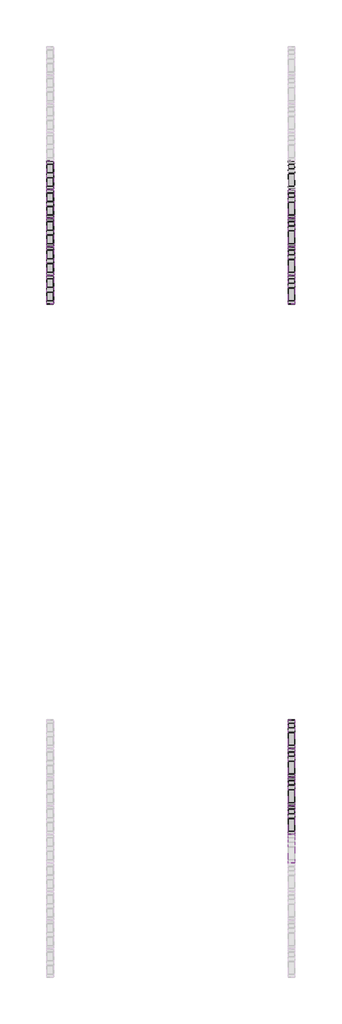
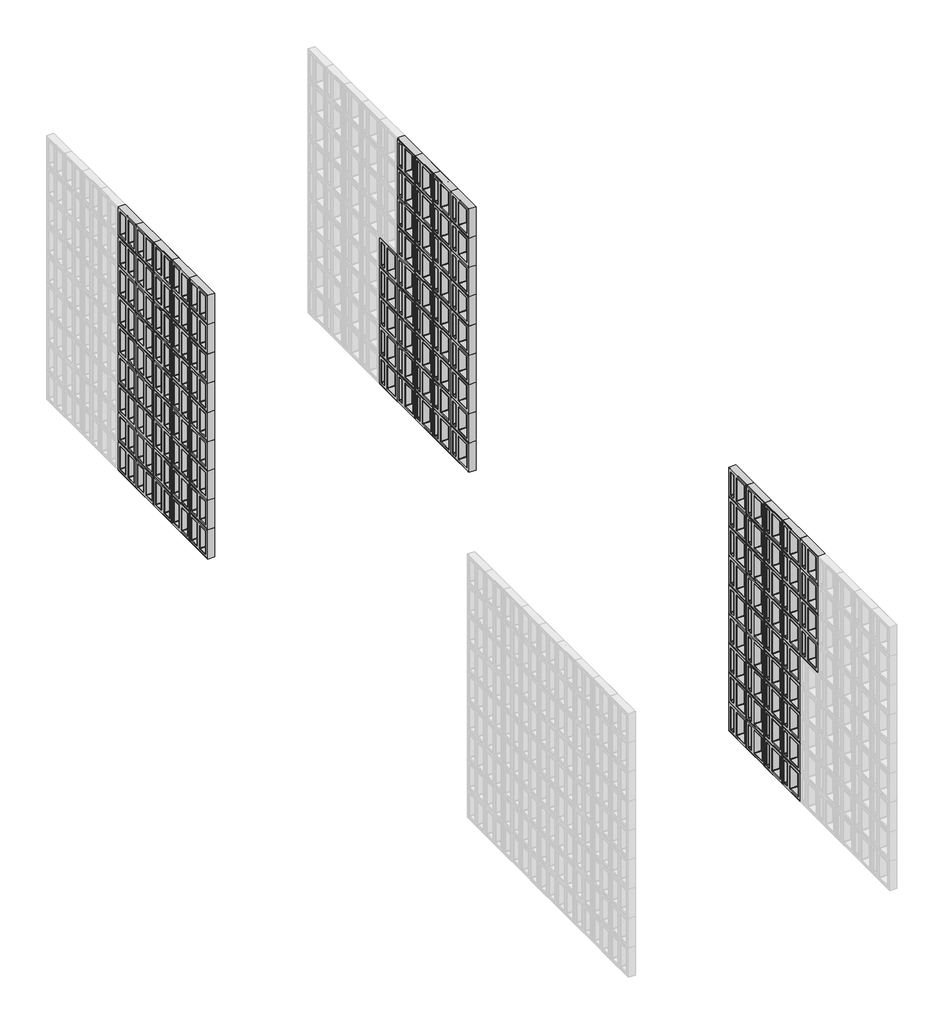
# One storey, part 2 of 8: 126 plates.
"""IFC4 building model written with IfcOpenShell, lengths in millimetres."""

from ifc_helpers import new_model, si_unit, origin, place, context, project, spatial, transform, mapped, element, save
from components import plate_08ec880d, sim_branco_8a5b93f5

model = new_model("IFC4")

# Units and contexts
model_context = context("Model", 3, world=origin())
ifc_project = project(units=[si_unit("LENGTHUNIT", "METRE", prefix="MILLI")], contexts=[model_context])

# Site, building, storey
site = spatial("IfcSite", under=ifc_project)
building = spatial("IfcBuilding", under=site)
storey = spatial("IfcBuildingStorey", under=building, Name="PORTOBELLO - SHOWROOM", Elevation=0.0)

# Plates
placement = place(None, origin())
plate_shape = plate_08ec880d(model_context)
element("IfcPlate", 1, ObjectType="PORTOBELLO - ELEMENTO ASSIM BRANCO 30X30 (PAINEL CORTINA) : ASSIM BRANCO", at=placement, inside=storey, context=model_context, shape_type="MappedRepresentation", body=[
    mapped(plate_shape, transform((149974.9354422, 4710.9733077, 1540.0), x_axis=(0.0, 1.0, 0.0), y_axis=(-1.0, 0.0, 0.0), z_axis=(0.0, 0.0, 1.0))),
])
element("IfcPlate", 2, ObjectType="PORTOBELLO - ELEMENTO ASSIM BRANCO 30X30 (PAINEL CORTINA) : ASSIM BRANCO", at=placement, inside=storey, context=model_context, shape_type="MappedRepresentation", body=[
    mapped(plate_shape, transform((149974.9354422, 4710.9733077, 1848.0), x_axis=(0.0, 1.0, 0.0), y_axis=(-1.0, 0.0, 0.0), z_axis=(0.0, 0.0, 1.0))),
])
element("IfcPlate", 3, ObjectType="PORTOBELLO - ELEMENTO ASSIM BRANCO 30X30 (PAINEL CORTINA) : ASSIM BRANCO", at=placement, inside=storey, context=model_context, shape_type="MappedRepresentation", body=[
    mapped(plate_shape, transform((149974.9354422, 4710.9733077, 2156.0), x_axis=(0.0, 1.0, 0.0), y_axis=(-1.0, 0.0, 0.0), z_axis=(0.0, 0.0, 1.0))),
])
element("IfcPlate", 4, ObjectType="PORTOBELLO - ELEMENTO ASSIM BRANCO 30X30 (PAINEL CORTINA) : ASSIM BRANCO", at=placement, inside=storey, context=model_context, shape_type="MappedRepresentation", body=[
    mapped(plate_shape, transform((149974.9354422, 5018.9733077, 0.0), x_axis=(0.0, 1.0, 0.0), y_axis=(-1.0, 0.0, 0.0), z_axis=(0.0, 0.0, 1.0))),
])
element("IfcPlate", 5, ObjectType="PORTOBELLO - ELEMENTO ASSIM BRANCO 30X30 (PAINEL CORTINA) : ASSIM BRANCO", at=placement, inside=storey, context=model_context, shape_type="MappedRepresentation", body=[
    mapped(plate_shape, transform((149974.9354422, 5018.9733077, 308.0), x_axis=(0.0, 1.0, 0.0), y_axis=(-1.0, 0.0, 0.0), z_axis=(0.0, 0.0, 1.0))),
])
element("IfcPlate", 6, ObjectType="PORTOBELLO - ELEMENTO ASSIM BRANCO 30X30 (PAINEL CORTINA) : ASSIM BRANCO", at=placement, inside=storey, context=model_context, shape_type="MappedRepresentation", body=[
    mapped(plate_shape, transform((149974.9354422, 5018.9733077, 616.0), x_axis=(0.0, 1.0, 0.0), y_axis=(-1.0, 0.0, 0.0), z_axis=(0.0, 0.0, 1.0))),
])
element("IfcPlate", 7, ObjectType="PORTOBELLO - ELEMENTO ASSIM BRANCO 30X30 (PAINEL CORTINA) : ASSIM BRANCO", at=placement, inside=storey, context=model_context, shape_type="MappedRepresentation", body=[
    mapped(plate_shape, transform((149974.9354422, 5018.9733077, 924.0), x_axis=(0.0, 1.0, 0.0), y_axis=(-1.0, 0.0, 0.0), z_axis=(0.0, 0.0, 1.0))),
])
element("IfcPlate", 8, ObjectType="PORTOBELLO - ELEMENTO ASSIM BRANCO 30X30 (PAINEL CORTINA) : ASSIM BRANCO", at=placement, inside=storey, context=model_context, shape_type="MappedRepresentation", body=[
    mapped(plate_shape, transform((149974.9354422, 5018.9733077, 1232.0), x_axis=(0.0, 1.0, 0.0), y_axis=(-1.0, 0.0, 0.0), z_axis=(0.0, 0.0, 1.0))),
])
element("IfcPlate", 9, ObjectType="PORTOBELLO - ELEMENTO ASSIM BRANCO 30X30 (PAINEL CORTINA) : ASSIM BRANCO", at=placement, inside=storey, context=model_context, shape_type="MappedRepresentation", body=[
    mapped(plate_shape, transform((149974.9354422, 5018.9733077, 1540.0), x_axis=(0.0, 1.0, 0.0), y_axis=(-1.0, 0.0, 0.0), z_axis=(0.0, 0.0, 1.0))),
])
element("IfcPlate", 10, ObjectType="PORTOBELLO - ELEMENTO ASSIM BRANCO 30X30 (PAINEL CORTINA) : ASSIM BRANCO", at=placement, inside=storey, context=model_context, shape_type="MappedRepresentation", body=[
    mapped(plate_shape, transform((149974.9354422, 5018.9733077, 1848.0), x_axis=(0.0, 1.0, 0.0), y_axis=(-1.0, 0.0, 0.0), z_axis=(0.0, 0.0, 1.0))),
])
element("IfcPlate", 11, ObjectType="PORTOBELLO - ELEMENTO ASSIM BRANCO 30X30 (PAINEL CORTINA) : ASSIM BRANCO", at=placement, inside=storey, context=model_context, shape_type="MappedRepresentation", body=[
    mapped(plate_shape, transform((149974.9354422, 5018.9733077, 2156.0), x_axis=(0.0, 1.0, 0.0), y_axis=(-1.0, 0.0, 0.0), z_axis=(0.0, 0.0, 1.0))),
])
element("IfcPlate", 12, ObjectType="PORTOBELLO - ELEMENTO ASSIM BRANCO 30X30 (PAINEL CORTINA) : ASSIM BRANCO", at=placement, inside=storey, context=model_context, shape_type="MappedRepresentation", body=[
    mapped(plate_shape, transform((149974.9354422, 5326.9733077, 0.0), x_axis=(0.0, 1.0, 0.0), y_axis=(-1.0, 0.0, 0.0), z_axis=(0.0, 0.0, 1.0))),
])
element("IfcPlate", 13, ObjectType="PORTOBELLO - ELEMENTO ASSIM BRANCO 30X30 (PAINEL CORTINA) : ASSIM BRANCO", at=placement, inside=storey, context=model_context, shape_type="MappedRepresentation", body=[
    mapped(plate_shape, transform((149974.9354422, 5326.9733077, 308.0), x_axis=(0.0, 1.0, 0.0), y_axis=(-1.0, 0.0, 0.0), z_axis=(0.0, 0.0, 1.0))),
])
element("IfcPlate", 14, ObjectType="PORTOBELLO - ELEMENTO ASSIM BRANCO 30X30 (PAINEL CORTINA) : ASSIM BRANCO", at=placement, inside=storey, context=model_context, shape_type="MappedRepresentation", body=[
    mapped(plate_shape, transform((149974.9354422, 5326.9733077, 616.0), x_axis=(0.0, 1.0, 0.0), y_axis=(-1.0, 0.0, 0.0), z_axis=(0.0, 0.0, 1.0))),
])
element("IfcPlate", 15, ObjectType="PORTOBELLO - ELEMENTO ASSIM BRANCO 30X30 (PAINEL CORTINA) : ASSIM BRANCO", at=placement, inside=storey, context=model_context, shape_type="MappedRepresentation", body=[
    mapped(plate_shape, transform((149974.9354422, 5326.9733077, 924.0), x_axis=(0.0, 1.0, 0.0), y_axis=(-1.0, 0.0, 0.0), z_axis=(0.0, 0.0, 1.0))),
])
element("IfcPlate", 16, ObjectType="PORTOBELLO - ELEMENTO ASSIM BRANCO 30X30 (PAINEL CORTINA) : ASSIM BRANCO", at=placement, inside=storey, context=model_context, shape_type="MappedRepresentation", body=[
    mapped(plate_shape, transform((149974.9354422, 5326.9733077, 1232.0), x_axis=(0.0, 1.0, 0.0), y_axis=(-1.0, 0.0, 0.0), z_axis=(0.0, 0.0, 1.0))),
])
element("IfcPlate", 17, ObjectType="PORTOBELLO - ELEMENTO ASSIM BRANCO 30X30 (PAINEL CORTINA) : ASSIM BRANCO", at=placement, inside=storey, context=model_context, shape_type="MappedRepresentation", body=[
    mapped(plate_shape, transform((149974.9354422, 5326.9733077, 1540.0), x_axis=(0.0, 1.0, 0.0), y_axis=(-1.0, 0.0, 0.0), z_axis=(0.0, 0.0, 1.0))),
])
element("IfcPlate", 18, ObjectType="PORTOBELLO - ELEMENTO ASSIM BRANCO 30X30 (PAINEL CORTINA) : ASSIM BRANCO", at=placement, inside=storey, context=model_context, shape_type="MappedRepresentation", body=[
    mapped(plate_shape, transform((149974.9354422, 5326.9733077, 1848.0), x_axis=(0.0, 1.0, 0.0), y_axis=(-1.0, 0.0, 0.0), z_axis=(0.0, 0.0, 1.0))),
])
element("IfcPlate", 19, ObjectType="PORTOBELLO - ELEMENTO ASSIM BRANCO 30X30 (PAINEL CORTINA) : ASSIM BRANCO", at=placement, inside=storey, context=model_context, shape_type="MappedRepresentation", body=[
    mapped(plate_shape, transform((149974.9354422, 5326.9733077, 2156.0), x_axis=(0.0, 1.0, 0.0), y_axis=(-1.0, 0.0, 0.0), z_axis=(0.0, 0.0, 1.0))),
])
element("IfcPlate", 20, ObjectType="PORTOBELLO - ELEMENTO ASSIM BRANCO 30X30 (PAINEL CORTINA) : ASSIM BRANCO", at=placement, inside=storey, context=model_context, shape_type="MappedRepresentation", body=[
    mapped(plate_shape, transform((149974.9354422, 5634.9733077, 0.0), x_axis=(0.0, 1.0, 0.0), y_axis=(-1.0, 0.0, 0.0), z_axis=(0.0, 0.0, 1.0))),
])
element("IfcPlate", 21, ObjectType="PORTOBELLO - ELEMENTO ASSIM BRANCO 30X30 (PAINEL CORTINA) : ASSIM BRANCO", at=placement, inside=storey, context=model_context, shape_type="MappedRepresentation", body=[
    mapped(plate_shape, transform((149974.9354422, 5634.9733077, 308.0), x_axis=(0.0, 1.0, 0.0), y_axis=(-1.0, 0.0, 0.0), z_axis=(0.0, 0.0, 1.0))),
])
element("IfcPlate", 22, ObjectType="PORTOBELLO - ELEMENTO ASSIM BRANCO 30X30 (PAINEL CORTINA) : ASSIM BRANCO", at=placement, inside=storey, context=model_context, shape_type="MappedRepresentation", body=[
    mapped(plate_shape, transform((149974.9354422, 5634.9733077, 616.0), x_axis=(0.0, 1.0, 0.0), y_axis=(-1.0, 0.0, 0.0), z_axis=(0.0, 0.0, 1.0))),
])
element("IfcPlate", 23, ObjectType="PORTOBELLO - ELEMENTO ASSIM BRANCO 30X30 (PAINEL CORTINA) : ASSIM BRANCO", at=placement, inside=storey, context=model_context, shape_type="MappedRepresentation", body=[
    mapped(plate_shape, transform((149974.9354422, 5634.9733077, 924.0), x_axis=(0.0, 1.0, 0.0), y_axis=(-1.0, 0.0, 0.0), z_axis=(0.0, 0.0, 1.0))),
])
element("IfcPlate", 24, ObjectType="PORTOBELLO - ELEMENTO ASSIM BRANCO 30X30 (PAINEL CORTINA) : ASSIM BRANCO", at=placement, inside=storey, context=model_context, shape_type="MappedRepresentation", body=[
    mapped(plate_shape, transform((149974.9354422, 5634.9733077, 1232.0), x_axis=(0.0, 1.0, 0.0), y_axis=(-1.0, 0.0, 0.0), z_axis=(0.0, 0.0, 1.0))),
])
element("IfcPlate", 25, ObjectType="PORTOBELLO - ELEMENTO ASSIM BRANCO 30X30 (PAINEL CORTINA) : ASSIM BRANCO", at=placement, inside=storey, context=model_context, shape_type="MappedRepresentation", body=[
    mapped(plate_shape, transform((149974.9354422, 5634.9733077, 1540.0), x_axis=(0.0, 1.0, 0.0), y_axis=(-1.0, 0.0, 0.0), z_axis=(0.0, 0.0, 1.0))),
])
element("IfcPlate", 26, ObjectType="PORTOBELLO - ELEMENTO ASSIM BRANCO 30X30 (PAINEL CORTINA) : ASSIM BRANCO", at=placement, inside=storey, context=model_context, shape_type="MappedRepresentation", body=[
    mapped(plate_shape, transform((149974.9354422, 5634.9733077, 1848.0), x_axis=(0.0, 1.0, 0.0), y_axis=(-1.0, 0.0, 0.0), z_axis=(0.0, 0.0, 1.0))),
])
element("IfcPlate", 27, ObjectType="PORTOBELLO - ELEMENTO ASSIM BRANCO 30X30 (PAINEL CORTINA) : ASSIM BRANCO", at=placement, inside=storey, context=model_context, shape_type="MappedRepresentation", body=[
    mapped(plate_shape, transform((149974.9354422, 5634.9733077, 2156.0), x_axis=(0.0, 1.0, 0.0), y_axis=(-1.0, 0.0, 0.0), z_axis=(0.0, 0.0, 1.0))),
])
element("IfcPlate", 28, ObjectType="PORTOBELLO - ELEMENTO ASSIM BRANCO 30X30 (PAINEL CORTINA) : ASSIM BRANCO", at=placement, inside=storey, context=model_context, shape_type="MappedRepresentation", body=[
    mapped(plate_shape, transform((149974.9354422, 5942.9733077, 0.0), x_axis=(0.0, 1.0, 0.0), y_axis=(-1.0, 0.0, 0.0), z_axis=(0.0, 0.0, 1.0))),
])
element("IfcPlate", 29, ObjectType="PORTOBELLO - ELEMENTO ASSIM BRANCO 30X30 (PAINEL CORTINA) : ASSIM BRANCO", at=placement, inside=storey, context=model_context, shape_type="MappedRepresentation", body=[
    mapped(plate_shape, transform((149974.9354422, 5942.9733077, 308.0), x_axis=(0.0, 1.0, 0.0), y_axis=(-1.0, 0.0, 0.0), z_axis=(0.0, 0.0, 1.0))),
])
element("IfcPlate", 30, ObjectType="PORTOBELLO - ELEMENTO ASSIM BRANCO 30X30 (PAINEL CORTINA) : ASSIM BRANCO", at=placement, inside=storey, context=model_context, shape_type="MappedRepresentation", body=[
    mapped(plate_shape, transform((149974.9354422, 5942.9733077, 616.0), x_axis=(0.0, 1.0, 0.0), y_axis=(-1.0, 0.0, 0.0), z_axis=(0.0, 0.0, 1.0))),
])
element("IfcPlate", 31, ObjectType="PORTOBELLO - ELEMENTO ASSIM BRANCO 30X30 (PAINEL CORTINA) : ASSIM BRANCO", at=placement, inside=storey, context=model_context, shape_type="MappedRepresentation", body=[
    mapped(plate_shape, transform((149974.9354422, 5942.9733077, 924.0), x_axis=(0.0, 1.0, 0.0), y_axis=(-1.0, 0.0, 0.0), z_axis=(0.0, 0.0, 1.0))),
])
element("IfcPlate", 32, ObjectType="PORTOBELLO - ELEMENTO ASSIM BRANCO 30X30 (PAINEL CORTINA) : ASSIM BRANCO", at=placement, inside=storey, context=model_context, shape_type="MappedRepresentation", body=[
    mapped(plate_shape, transform((149974.9354422, 5942.9733077, 1232.0), x_axis=(0.0, 1.0, 0.0), y_axis=(-1.0, 0.0, 0.0), z_axis=(0.0, 0.0, 1.0))),
])
element("IfcPlate", 33, ObjectType="PORTOBELLO - ELEMENTO ASSIM BRANCO 30X30 (PAINEL CORTINA) : ASSIM BRANCO", at=placement, inside=storey, context=model_context, shape_type="MappedRepresentation", body=[
    mapped(plate_shape, transform((149974.9354422, 5942.9733077, 1540.0), x_axis=(0.0, 1.0, 0.0), y_axis=(-1.0, 0.0, 0.0), z_axis=(0.0, 0.0, 1.0))),
])
element("IfcPlate", 34, ObjectType="PORTOBELLO - ELEMENTO ASSIM BRANCO 30X30 (PAINEL CORTINA) : ASSIM BRANCO", at=placement, inside=storey, context=model_context, shape_type="MappedRepresentation", body=[
    mapped(plate_shape, transform((149974.9354422, 5942.9733077, 1848.0), x_axis=(0.0, 1.0, 0.0), y_axis=(-1.0, 0.0, 0.0), z_axis=(0.0, 0.0, 1.0))),
])
element("IfcPlate", 35, ObjectType="PORTOBELLO - ELEMENTO ASSIM BRANCO 30X30 (PAINEL CORTINA) : ASSIM BRANCO", at=placement, inside=storey, context=model_context, shape_type="MappedRepresentation", body=[
    mapped(plate_shape, transform((149974.9354422, 5942.9733077, 2156.0), x_axis=(0.0, 1.0, 0.0), y_axis=(-1.0, 0.0, 0.0), z_axis=(0.0, 0.0, 1.0))),
])
element("IfcPlate", 36, ObjectType="PORTOBELLO - ELEMENTO ASSIM BRANCO 30X30 (PAINEL CORTINA) : ASSIM BRANCO", at=placement, inside=storey, context=model_context, shape_type="MappedRepresentation", body=[
    mapped(plate_shape, transform((149974.9354422, 4710.9733077, 2464.0), x_axis=(0.0, 1.0, 0.0), y_axis=(-1.0, 0.0, 0.0), z_axis=(0.0, 0.0, 1.0))),
])
element("IfcPlate", 37, ObjectType="PORTOBELLO - ELEMENTO ASSIM BRANCO 30X30 (PAINEL CORTINA) : ASSIM BRANCO", at=placement, inside=storey, context=model_context, shape_type="MappedRepresentation", body=[
    mapped(plate_shape, transform((149974.9354422, 5018.9733077, 2464.0), x_axis=(0.0, 1.0, 0.0), y_axis=(-1.0, 0.0, 0.0), z_axis=(0.0, 0.0, 1.0))),
])
element("IfcPlate", 38, ObjectType="PORTOBELLO - ELEMENTO ASSIM BRANCO 30X30 (PAINEL CORTINA) : ASSIM BRANCO", at=placement, inside=storey, context=model_context, shape_type="MappedRepresentation", body=[
    mapped(plate_shape, transform((149974.9354422, 5326.9733077, 2464.0), x_axis=(0.0, 1.0, 0.0), y_axis=(-1.0, 0.0, 0.0), z_axis=(0.0, 0.0, 1.0))),
])
element("IfcPlate", 39, ObjectType="PORTOBELLO - ELEMENTO ASSIM BRANCO 30X30 (PAINEL CORTINA) : ASSIM BRANCO", at=placement, inside=storey, context=model_context, shape_type="MappedRepresentation", body=[
    mapped(plate_shape, transform((149974.9354422, 5634.9733077, 2464.0), x_axis=(0.0, 1.0, 0.0), y_axis=(-1.0, 0.0, 0.0), z_axis=(0.0, 0.0, 1.0))),
])
element("IfcPlate", 40, ObjectType="PORTOBELLO - ELEMENTO ASSIM BRANCO 30X30 (PAINEL CORTINA) : ASSIM BRANCO", at=placement, inside=storey, context=model_context, shape_type="MappedRepresentation", body=[
    mapped(plate_shape, transform((149974.9354422, 5942.9733077, 2464.0), x_axis=(0.0, 1.0, 0.0), y_axis=(-1.0, 0.0, 0.0), z_axis=(0.0, 0.0, 1.0))),
])
element("IfcPlate", 41, ObjectType="PORTOBELLO - ELEMENTO ASSIM CINZA 30X30 (PAINEL CORTINA) : ASSIM CINZA", at=placement, inside=storey, context=model_context, shape_type="MappedRepresentation", body=[
    mapped(plate_shape, transform((149974.9354422, 10730.1065277, 0.0), x_axis=(0.0, 1.0, 0.0), y_axis=(-1.0, 0.0, 0.0), z_axis=(0.0, 0.0, 1.0))),
])
element("IfcPlate", 42, ObjectType="PORTOBELLO - ELEMENTO ASSIM CINZA 30X30 (PAINEL CORTINA) : ASSIM CINZA", at=placement, inside=storey, context=model_context, shape_type="MappedRepresentation", body=[
    mapped(plate_shape, transform((149974.9354422, 10730.1065277, 308.0), x_axis=(0.0, 1.0, 0.0), y_axis=(-1.0, 0.0, 0.0), z_axis=(0.0, 0.0, 1.0))),
])
element("IfcPlate", 43, ObjectType="PORTOBELLO - ELEMENTO ASSIM CINZA 30X30 (PAINEL CORTINA) : ASSIM CINZA", at=placement, inside=storey, context=model_context, shape_type="MappedRepresentation", body=[
    mapped(plate_shape, transform((149974.9354422, 10730.1065277, 616.0), x_axis=(0.0, 1.0, 0.0), y_axis=(-1.0, 0.0, 0.0), z_axis=(0.0, 0.0, 1.0))),
])
element("IfcPlate", 44, ObjectType="PORTOBELLO - ELEMENTO ASSIM CINZA 30X30 (PAINEL CORTINA) : ASSIM CINZA", at=placement, inside=storey, context=model_context, shape_type="MappedRepresentation", body=[
    mapped(plate_shape, transform((149974.9354422, 10730.1065277, 924.0), x_axis=(0.0, 1.0, 0.0), y_axis=(-1.0, 0.0, 0.0), z_axis=(0.0, 0.0, 1.0))),
])
element("IfcPlate", 45, ObjectType="PORTOBELLO - ELEMENTO ASSIM CINZA 30X30 (PAINEL CORTINA) : ASSIM CINZA", at=placement, inside=storey, context=model_context, shape_type="MappedRepresentation", body=[
    mapped(plate_shape, transform((149974.9354422, 10730.1065277, 1232.0), x_axis=(0.0, 1.0, 0.0), y_axis=(-1.0, 0.0, 0.0), z_axis=(0.0, 0.0, 1.0))),
])
element("IfcPlate", 46, ObjectType="PORTOBELLO - ELEMENTO ASSIM CINZA 30X30 (PAINEL CORTINA) : ASSIM CINZA", at=placement, inside=storey, context=model_context, shape_type="MappedRepresentation", body=[
    mapped(plate_shape, transform((149974.9354422, 10730.1065277, 1540.0), x_axis=(0.0, 1.0, 0.0), y_axis=(-1.0, 0.0, 0.0), z_axis=(0.0, 0.0, 1.0))),
])
element("IfcPlate", 47, ObjectType="PORTOBELLO - ELEMENTO ASSIM CINZA 30X30 (PAINEL CORTINA) : ASSIM CINZA", at=placement, inside=storey, context=model_context, shape_type="MappedRepresentation", body=[
    mapped(plate_shape, transform((149974.9354422, 10730.1065277, 1848.0), x_axis=(0.0, 1.0, 0.0), y_axis=(-1.0, 0.0, 0.0), z_axis=(0.0, 0.0, 1.0))),
])
element("IfcPlate", 48, ObjectType="PORTOBELLO - ELEMENTO ASSIM CINZA 30X30 (PAINEL CORTINA) : ASSIM CINZA", at=placement, inside=storey, context=model_context, shape_type="MappedRepresentation", body=[
    mapped(plate_shape, transform((149974.9354422, 10730.1065277, 2156.0), x_axis=(0.0, 1.0, 0.0), y_axis=(-1.0, 0.0, 0.0), z_axis=(0.0, 0.0, 1.0))),
])
element("IfcPlate", 49, ObjectType="PORTOBELLO - ELEMENTO ASSIM CINZA 30X30 (PAINEL CORTINA) : ASSIM CINZA", at=placement, inside=storey, context=model_context, shape_type="MappedRepresentation", body=[
    mapped(plate_shape, transform((149974.9354422, 11038.1065279, 0.0), x_axis=(0.0, 1.0, 0.0), y_axis=(-1.0, 0.0, 0.0), z_axis=(0.0, 0.0, 1.0))),
])
element("IfcPlate", 50, ObjectType="PORTOBELLO - ELEMENTO ASSIM CINZA 30X30 (PAINEL CORTINA) : ASSIM CINZA", at=placement, inside=storey, context=model_context, shape_type="MappedRepresentation", body=[
    mapped(plate_shape, transform((149974.9354422, 11038.1065279, 308.0), x_axis=(0.0, 1.0, 0.0), y_axis=(-1.0, 0.0, 0.0), z_axis=(0.0, 0.0, 1.0))),
])
element("IfcPlate", 51, ObjectType="PORTOBELLO - ELEMENTO ASSIM CINZA 30X30 (PAINEL CORTINA) : ASSIM CINZA", at=placement, inside=storey, context=model_context, shape_type="MappedRepresentation", body=[
    mapped(plate_shape, transform((149974.9354422, 11038.1065279, 616.0), x_axis=(0.0, 1.0, 0.0), y_axis=(-1.0, 0.0, 0.0), z_axis=(0.0, 0.0, 1.0))),
])
element("IfcPlate", 52, ObjectType="PORTOBELLO - ELEMENTO ASSIM CINZA 30X30 (PAINEL CORTINA) : ASSIM CINZA", at=placement, inside=storey, context=model_context, shape_type="MappedRepresentation", body=[
    mapped(plate_shape, transform((149974.9354422, 11038.1065279, 924.0), x_axis=(0.0, 1.0, 0.0), y_axis=(-1.0, 0.0, 0.0), z_axis=(0.0, 0.0, 1.0))),
])
element("IfcPlate", 53, ObjectType="PORTOBELLO - ELEMENTO ASSIM CINZA 30X30 (PAINEL CORTINA) : ASSIM CINZA", at=placement, inside=storey, context=model_context, shape_type="MappedRepresentation", body=[
    mapped(plate_shape, transform((149974.9354422, 11038.1065279, 1232.0), x_axis=(0.0, 1.0, 0.0), y_axis=(-1.0, 0.0, 0.0), z_axis=(0.0, 0.0, 1.0))),
])
element("IfcPlate", 54, ObjectType="PORTOBELLO - ELEMENTO ASSIM CINZA 30X30 (PAINEL CORTINA) : ASSIM CINZA", at=placement, inside=storey, context=model_context, shape_type="MappedRepresentation", body=[
    mapped(plate_shape, transform((149974.9354422, 11038.1065279, 1540.0), x_axis=(0.0, 1.0, 0.0), y_axis=(-1.0, 0.0, 0.0), z_axis=(0.0, 0.0, 1.0))),
])
element("IfcPlate", 55, ObjectType="PORTOBELLO - ELEMENTO ASSIM CINZA 30X30 (PAINEL CORTINA) : ASSIM CINZA", at=placement, inside=storey, context=model_context, shape_type="MappedRepresentation", body=[
    mapped(plate_shape, transform((149974.9354422, 11038.1065279, 1848.0), x_axis=(0.0, 1.0, 0.0), y_axis=(-1.0, 0.0, 0.0), z_axis=(0.0, 0.0, 1.0))),
])
element("IfcPlate", 56, ObjectType="PORTOBELLO - ELEMENTO ASSIM CINZA 30X30 (PAINEL CORTINA) : ASSIM CINZA", at=placement, inside=storey, context=model_context, shape_type="MappedRepresentation", body=[
    mapped(plate_shape, transform((149974.9354422, 11038.1065279, 2156.0), x_axis=(0.0, 1.0, 0.0), y_axis=(-1.0, 0.0, 0.0), z_axis=(0.0, 0.0, 1.0))),
])
element("IfcPlate", 57, ObjectType="PORTOBELLO - ELEMENTO ASSIM CINZA 30X30 (PAINEL CORTINA) : ASSIM CINZA", at=placement, inside=storey, context=model_context, shape_type="MappedRepresentation", body=[
    mapped(plate_shape, transform((149974.9354422, 11346.1065279, 0.0), x_axis=(0.0, 1.0, 0.0), y_axis=(-1.0, 0.0, 0.0), z_axis=(0.0, 0.0, 1.0))),
])
element("IfcPlate", 58, ObjectType="PORTOBELLO - ELEMENTO ASSIM CINZA 30X30 (PAINEL CORTINA) : ASSIM CINZA", at=placement, inside=storey, context=model_context, shape_type="MappedRepresentation", body=[
    mapped(plate_shape, transform((149974.9354422, 11346.1065279, 308.0), x_axis=(0.0, 1.0, 0.0), y_axis=(-1.0, 0.0, 0.0), z_axis=(0.0, 0.0, 1.0))),
])
element("IfcPlate", 59, ObjectType="PORTOBELLO - ELEMENTO ASSIM CINZA 30X30 (PAINEL CORTINA) : ASSIM CINZA", at=placement, inside=storey, context=model_context, shape_type="MappedRepresentation", body=[
    mapped(plate_shape, transform((149974.9354422, 11346.1065279, 616.0), x_axis=(0.0, 1.0, 0.0), y_axis=(-1.0, 0.0, 0.0), z_axis=(0.0, 0.0, 1.0))),
])
element("IfcPlate", 60, ObjectType="PORTOBELLO - ELEMENTO ASSIM CINZA 30X30 (PAINEL CORTINA) : ASSIM CINZA", at=placement, inside=storey, context=model_context, shape_type="MappedRepresentation", body=[
    mapped(plate_shape, transform((149974.9354422, 11346.1065279, 924.0), x_axis=(0.0, 1.0, 0.0), y_axis=(-1.0, 0.0, 0.0), z_axis=(0.0, 0.0, 1.0))),
])
element("IfcPlate", 61, ObjectType="PORTOBELLO - ELEMENTO ASSIM CINZA 30X30 (PAINEL CORTINA) : ASSIM CINZA", at=placement, inside=storey, context=model_context, shape_type="MappedRepresentation", body=[
    mapped(plate_shape, transform((149974.9354422, 11346.1065279, 1232.0), x_axis=(0.0, 1.0, 0.0), y_axis=(-1.0, 0.0, 0.0), z_axis=(0.0, 0.0, 1.0))),
])
element("IfcPlate", 62, ObjectType="PORTOBELLO - ELEMENTO ASSIM CINZA 30X30 (PAINEL CORTINA) : ASSIM CINZA", at=placement, inside=storey, context=model_context, shape_type="MappedRepresentation", body=[
    mapped(plate_shape, transform((149974.9354422, 11346.1065279, 1540.0), x_axis=(0.0, 1.0, 0.0), y_axis=(-1.0, 0.0, 0.0), z_axis=(0.0, 0.0, 1.0))),
])
element("IfcPlate", 63, ObjectType="PORTOBELLO - ELEMENTO ASSIM CINZA 30X30 (PAINEL CORTINA) : ASSIM CINZA", at=placement, inside=storey, context=model_context, shape_type="MappedRepresentation", body=[
    mapped(plate_shape, transform((149974.9354422, 11346.1065279, 1848.0), x_axis=(0.0, 1.0, 0.0), y_axis=(-1.0, 0.0, 0.0), z_axis=(0.0, 0.0, 1.0))),
])
element("IfcPlate", 64, ObjectType="PORTOBELLO - ELEMENTO ASSIM CINZA 30X30 (PAINEL CORTINA) : ASSIM CINZA", at=placement, inside=storey, context=model_context, shape_type="MappedRepresentation", body=[
    mapped(plate_shape, transform((149974.9354422, 11346.1065279, 2156.0), x_axis=(0.0, 1.0, 0.0), y_axis=(-1.0, 0.0, 0.0), z_axis=(0.0, 0.0, 1.0))),
])
element("IfcPlate", 65, ObjectType="PORTOBELLO - ELEMENTO ASSIM CINZA 30X30 (PAINEL CORTINA) : ASSIM CINZA", at=placement, inside=storey, context=model_context, shape_type="MappedRepresentation", body=[
    mapped(plate_shape, transform((149974.9354422, 11654.1065279, 0.0), x_axis=(0.0, 1.0, 0.0), y_axis=(-1.0, 0.0, 0.0), z_axis=(0.0, 0.0, 1.0))),
])
element("IfcPlate", 66, ObjectType="PORTOBELLO - ELEMENTO ASSIM CINZA 30X30 (PAINEL CORTINA) : ASSIM CINZA", at=placement, inside=storey, context=model_context, shape_type="MappedRepresentation", body=[
    mapped(plate_shape, transform((149974.9354422, 11654.1065279, 308.0), x_axis=(0.0, 1.0, 0.0), y_axis=(-1.0, 0.0, 0.0), z_axis=(0.0, 0.0, 1.0))),
])
element("IfcPlate", 67, ObjectType="PORTOBELLO - ELEMENTO ASSIM CINZA 30X30 (PAINEL CORTINA) : ASSIM CINZA", at=placement, inside=storey, context=model_context, shape_type="MappedRepresentation", body=[
    mapped(plate_shape, transform((149974.9354422, 11654.1065279, 616.0), x_axis=(0.0, 1.0, 0.0), y_axis=(-1.0, 0.0, 0.0), z_axis=(0.0, 0.0, 1.0))),
])
element("IfcPlate", 68, ObjectType="PORTOBELLO - ELEMENTO ASSIM CINZA 30X30 (PAINEL CORTINA) : ASSIM CINZA", at=placement, inside=storey, context=model_context, shape_type="MappedRepresentation", body=[
    mapped(plate_shape, transform((149974.9354422, 11654.1065279, 924.0), x_axis=(0.0, 1.0, 0.0), y_axis=(-1.0, 0.0, 0.0), z_axis=(0.0, 0.0, 1.0))),
])
element("IfcPlate", 69, ObjectType="PORTOBELLO - ELEMENTO ASSIM CINZA 30X30 (PAINEL CORTINA) : ASSIM CINZA", at=placement, inside=storey, context=model_context, shape_type="MappedRepresentation", body=[
    mapped(plate_shape, transform((149974.9354422, 11654.1065279, 1232.0), x_axis=(0.0, 1.0, 0.0), y_axis=(-1.0, 0.0, 0.0), z_axis=(0.0, 0.0, 1.0))),
])
element("IfcPlate", 70, ObjectType="PORTOBELLO - ELEMENTO ASSIM CINZA 30X30 (PAINEL CORTINA) : ASSIM CINZA", at=placement, inside=storey, context=model_context, shape_type="MappedRepresentation", body=[
    mapped(plate_shape, transform((149974.9354422, 11654.1065279, 1540.0), x_axis=(0.0, 1.0, 0.0), y_axis=(-1.0, 0.0, 0.0), z_axis=(0.0, 0.0, 1.0))),
])
element("IfcPlate", 71, ObjectType="PORTOBELLO - ELEMENTO ASSIM CINZA 30X30 (PAINEL CORTINA) : ASSIM CINZA", at=placement, inside=storey, context=model_context, shape_type="MappedRepresentation", body=[
    mapped(plate_shape, transform((149974.9354422, 11654.1065279, 1848.0), x_axis=(0.0, 1.0, 0.0), y_axis=(-1.0, 0.0, 0.0), z_axis=(0.0, 0.0, 1.0))),
])
element("IfcPlate", 72, ObjectType="PORTOBELLO - ELEMENTO ASSIM CINZA 30X30 (PAINEL CORTINA) : ASSIM CINZA", at=placement, inside=storey, context=model_context, shape_type="MappedRepresentation", body=[
    mapped(plate_shape, transform((149974.9354422, 11654.1065279, 2156.0), x_axis=(0.0, 1.0, 0.0), y_axis=(-1.0, 0.0, 0.0), z_axis=(0.0, 0.0, 1.0))),
])
element("IfcPlate", 73, ObjectType="PORTOBELLO - ELEMENTO ASSIM CINZA 30X30 (PAINEL CORTINA) : ASSIM CINZA", at=placement, inside=storey, context=model_context, shape_type="MappedRepresentation", body=[
    mapped(plate_shape, transform((149974.9354422, 11962.1065279, 0.0), x_axis=(0.0, 1.0, 0.0), y_axis=(-1.0, 0.0, 0.0), z_axis=(0.0, 0.0, 1.0))),
])
element("IfcPlate", 74, ObjectType="PORTOBELLO - ELEMENTO ASSIM CINZA 30X30 (PAINEL CORTINA) : ASSIM CINZA", at=placement, inside=storey, context=model_context, shape_type="MappedRepresentation", body=[
    mapped(plate_shape, transform((149974.9354422, 11962.1065279, 308.0), x_axis=(0.0, 1.0, 0.0), y_axis=(-1.0, 0.0, 0.0), z_axis=(0.0, 0.0, 1.0))),
])
element("IfcPlate", 75, ObjectType="PORTOBELLO - ELEMENTO ASSIM CINZA 30X30 (PAINEL CORTINA) : ASSIM CINZA", at=placement, inside=storey, context=model_context, shape_type="MappedRepresentation", body=[
    mapped(plate_shape, transform((149974.9354422, 11962.1065279, 616.0), x_axis=(0.0, 1.0, 0.0), y_axis=(-1.0, 0.0, 0.0), z_axis=(0.0, 0.0, 1.0))),
])
element("IfcPlate", 76, ObjectType="PORTOBELLO - ELEMENTO ASSIM CINZA 30X30 (PAINEL CORTINA) : ASSIM CINZA", at=placement, inside=storey, context=model_context, shape_type="MappedRepresentation", body=[
    mapped(plate_shape, transform((149974.9354422, 11962.1065279, 924.0), x_axis=(0.0, 1.0, 0.0), y_axis=(-1.0, 0.0, 0.0), z_axis=(0.0, 0.0, 1.0))),
])
element("IfcPlate", 77, ObjectType="PORTOBELLO - ELEMENTO ASSIM CINZA 30X30 (PAINEL CORTINA) : ASSIM CINZA", at=placement, inside=storey, context=model_context, shape_type="MappedRepresentation", body=[
    mapped(plate_shape, transform((149974.9354422, 11962.1065279, 1232.0), x_axis=(0.0, 1.0, 0.0), y_axis=(-1.0, 0.0, 0.0), z_axis=(0.0, 0.0, 1.0))),
])
element("IfcPlate", 78, ObjectType="PORTOBELLO - ELEMENTO ASSIM CINZA 30X30 (PAINEL CORTINA) : ASSIM CINZA", at=placement, inside=storey, context=model_context, shape_type="MappedRepresentation", body=[
    mapped(plate_shape, transform((149974.9354422, 10730.1065277, 2464.0), x_axis=(0.0, 1.0, 0.0), y_axis=(-1.0, 0.0, 0.0), z_axis=(0.0, 0.0, 1.0))),
])
element("IfcPlate", 79, ObjectType="PORTOBELLO - ELEMENTO ASSIM CINZA 30X30 (PAINEL CORTINA) : ASSIM CINZA", at=placement, inside=storey, context=model_context, shape_type="MappedRepresentation", body=[
    mapped(plate_shape, transform((149974.9354422, 11038.1065279, 2464.0), x_axis=(0.0, 1.0, 0.0), y_axis=(-1.0, 0.0, 0.0), z_axis=(0.0, 0.0, 1.0))),
])
element("IfcPlate", 80, ObjectType="PORTOBELLO - ELEMENTO ASSIM CINZA 30X30 (PAINEL CORTINA) : ASSIM CINZA", at=placement, inside=storey, context=model_context, shape_type="MappedRepresentation", body=[
    mapped(plate_shape, transform((149974.9354422, 11346.1065279, 2464.0), x_axis=(0.0, 1.0, 0.0), y_axis=(-1.0, 0.0, 0.0), z_axis=(0.0, 0.0, 1.0))),
])
element("IfcPlate", 81, ObjectType="PORTOBELLO - ELEMENTO ASSIM CINZA 30X30 (PAINEL CORTINA) : ASSIM CINZA", at=placement, inside=storey, context=model_context, shape_type="MappedRepresentation", body=[
    mapped(plate_shape, transform((149974.9354422, 11654.1065279, 2464.0), x_axis=(0.0, 1.0, 0.0), y_axis=(-1.0, 0.0, 0.0), z_axis=(0.0, 0.0, 1.0))),
])
sim_branco_shape = sim_branco_8a5b93f5(model_context)
element("IfcPlate", 82, ObjectType="PORTOBELLO - ELEMENTO SIM CINZA 30X30 (PAINEL CORTINA) : SIM CINZA", at=placement, inside=storey, context=model_context, shape_type="MappedRepresentation", body=[
    mapped(sim_branco_shape, transform((147374.9354422, 10730.1065277, 0.0), x_axis=(0.0, 1.0, 0.0), y_axis=(-1.0, 0.0, 0.0), z_axis=(0.0, 0.0, 1.0))),
])
element("IfcPlate", 83, ObjectType="PORTOBELLO - ELEMENTO SIM CINZA 30X30 (PAINEL CORTINA) : SIM CINZA", at=placement, inside=storey, context=model_context, shape_type="MappedRepresentation", body=[
    mapped(sim_branco_shape, transform((147374.9354422, 11038.1065279, 0.0), x_axis=(0.0, 1.0, 0.0), y_axis=(-1.0, 0.0, 0.0), z_axis=(0.0, 0.0, 1.0))),
])
element("IfcPlate", 84, ObjectType="PORTOBELLO - ELEMENTO SIM CINZA 30X30 (PAINEL CORTINA) : SIM CINZA", at=placement, inside=storey, context=model_context, shape_type="MappedRepresentation", body=[
    mapped(sim_branco_shape, transform((147374.9354422, 11346.1065279, 0.0), x_axis=(0.0, 1.0, 0.0), y_axis=(-1.0, 0.0, 0.0), z_axis=(0.0, 0.0, 1.0))),
])
element("IfcPlate", 85, ObjectType="PORTOBELLO - ELEMENTO SIM CINZA 30X30 (PAINEL CORTINA) : SIM CINZA", at=placement, inside=storey, context=model_context, shape_type="MappedRepresentation", body=[
    mapped(sim_branco_shape, transform((147374.9354422, 11654.1065279, 0.0), x_axis=(0.0, 1.0, 0.0), y_axis=(-1.0, 0.0, 0.0), z_axis=(0.0, 0.0, 1.0))),
])
element("IfcPlate", 86, ObjectType="PORTOBELLO - ELEMENTO SIM CINZA 30X30 (PAINEL CORTINA) : SIM CINZA", at=placement, inside=storey, context=model_context, shape_type="MappedRepresentation", body=[
    mapped(sim_branco_shape, transform((147374.9354422, 11962.1065279, 0.0), x_axis=(0.0, 1.0, 0.0), y_axis=(-1.0, 0.0, 0.0), z_axis=(0.0, 0.0, 1.0))),
])
element("IfcPlate", 87, ObjectType="PORTOBELLO - ELEMENTO SIM CINZA 30X30 (PAINEL CORTINA) : SIM CINZA", at=placement, inside=storey, context=model_context, shape_type="MappedRepresentation", body=[
    mapped(sim_branco_shape, transform((147374.9354422, 10730.1065277, 308.0), x_axis=(0.0, 1.0, 0.0), y_axis=(-1.0, 0.0, 0.0), z_axis=(0.0, 0.0, 1.0))),
])
element("IfcPlate", 88, ObjectType="PORTOBELLO - ELEMENTO SIM CINZA 30X30 (PAINEL CORTINA) : SIM CINZA", at=placement, inside=storey, context=model_context, shape_type="MappedRepresentation", body=[
    mapped(sim_branco_shape, transform((147374.9354422, 11038.1065279, 308.0), x_axis=(0.0, 1.0, 0.0), y_axis=(-1.0, 0.0, 0.0), z_axis=(0.0, 0.0, 1.0))),
])
element("IfcPlate", 89, ObjectType="PORTOBELLO - ELEMENTO SIM CINZA 30X30 (PAINEL CORTINA) : SIM CINZA", at=placement, inside=storey, context=model_context, shape_type="MappedRepresentation", body=[
    mapped(sim_branco_shape, transform((147374.9354422, 11346.1065279, 308.0), x_axis=(0.0, 1.0, 0.0), y_axis=(-1.0, 0.0, 0.0), z_axis=(0.0, 0.0, 1.0))),
])
element("IfcPlate", 90, ObjectType="PORTOBELLO - ELEMENTO SIM CINZA 30X30 (PAINEL CORTINA) : SIM CINZA", at=placement, inside=storey, context=model_context, shape_type="MappedRepresentation", body=[
    mapped(sim_branco_shape, transform((147374.9354422, 11654.1065279, 308.0), x_axis=(0.0, 1.0, 0.0), y_axis=(-1.0, 0.0, 0.0), z_axis=(0.0, 0.0, 1.0))),
])
element("IfcPlate", 91, ObjectType="PORTOBELLO - ELEMENTO SIM CINZA 30X30 (PAINEL CORTINA) : SIM CINZA", at=placement, inside=storey, context=model_context, shape_type="MappedRepresentation", body=[
    mapped(sim_branco_shape, transform((147374.9354422, 11962.1065279, 308.0), x_axis=(0.0, 1.0, 0.0), y_axis=(-1.0, 0.0, 0.0), z_axis=(0.0, 0.0, 1.0))),
])
element("IfcPlate", 92, ObjectType="PORTOBELLO - ELEMENTO SIM CINZA 30X30 (PAINEL CORTINA) : SIM CINZA", at=placement, inside=storey, context=model_context, shape_type="MappedRepresentation", body=[
    mapped(sim_branco_shape, transform((147374.9354422, 10730.1065277, 616.0), x_axis=(0.0, 1.0, 0.0), y_axis=(-1.0, 0.0, 0.0), z_axis=(0.0, 0.0, 1.0))),
])
element("IfcPlate", 93, ObjectType="PORTOBELLO - ELEMENTO SIM CINZA 30X30 (PAINEL CORTINA) : SIM CINZA", at=placement, inside=storey, context=model_context, shape_type="MappedRepresentation", body=[
    mapped(sim_branco_shape, transform((147374.9354422, 11038.1065279, 616.0), x_axis=(0.0, 1.0, 0.0), y_axis=(-1.0, 0.0, 0.0), z_axis=(0.0, 0.0, 1.0))),
])
element("IfcPlate", 94, ObjectType="PORTOBELLO - ELEMENTO SIM CINZA 30X30 (PAINEL CORTINA) : SIM CINZA", at=placement, inside=storey, context=model_context, shape_type="MappedRepresentation", body=[
    mapped(sim_branco_shape, transform((147374.9354422, 11346.1065279, 616.0), x_axis=(0.0, 1.0, 0.0), y_axis=(-1.0, 0.0, 0.0), z_axis=(0.0, 0.0, 1.0))),
])
element("IfcPlate", 95, ObjectType="PORTOBELLO - ELEMENTO SIM CINZA 30X30 (PAINEL CORTINA) : SIM CINZA", at=placement, inside=storey, context=model_context, shape_type="MappedRepresentation", body=[
    mapped(sim_branco_shape, transform((147374.9354422, 11654.1065279, 616.0), x_axis=(0.0, 1.0, 0.0), y_axis=(-1.0, 0.0, 0.0), z_axis=(0.0, 0.0, 1.0))),
])
element("IfcPlate", 96, ObjectType="PORTOBELLO - ELEMENTO SIM CINZA 30X30 (PAINEL CORTINA) : SIM CINZA", at=placement, inside=storey, context=model_context, shape_type="MappedRepresentation", body=[
    mapped(sim_branco_shape, transform((147374.9354422, 11962.1065279, 616.0), x_axis=(0.0, 1.0, 0.0), y_axis=(-1.0, 0.0, 0.0), z_axis=(0.0, 0.0, 1.0))),
])
element("IfcPlate", 97, ObjectType="PORTOBELLO - ELEMENTO SIM CINZA 30X30 (PAINEL CORTINA) : SIM CINZA", at=placement, inside=storey, context=model_context, shape_type="MappedRepresentation", body=[
    mapped(sim_branco_shape, transform((147374.9354422, 10730.1065277, 924.0), x_axis=(0.0, 1.0, 0.0), y_axis=(-1.0, 0.0, 0.0), z_axis=(0.0, 0.0, 1.0))),
])
element("IfcPlate", 98, ObjectType="PORTOBELLO - ELEMENTO SIM CINZA 30X30 (PAINEL CORTINA) : SIM CINZA", at=placement, inside=storey, context=model_context, shape_type="MappedRepresentation", body=[
    mapped(sim_branco_shape, transform((147374.9354422, 11038.1065279, 924.0), x_axis=(0.0, 1.0, 0.0), y_axis=(-1.0, 0.0, 0.0), z_axis=(0.0, 0.0, 1.0))),
])
element("IfcPlate", 99, ObjectType="PORTOBELLO - ELEMENTO SIM CINZA 30X30 (PAINEL CORTINA) : SIM CINZA", at=placement, inside=storey, context=model_context, shape_type="MappedRepresentation", body=[
    mapped(sim_branco_shape, transform((147374.9354422, 11346.1065279, 924.0), x_axis=(0.0, 1.0, 0.0), y_axis=(-1.0, 0.0, 0.0), z_axis=(0.0, 0.0, 1.0))),
])
element("IfcPlate", 100, ObjectType="PORTOBELLO - ELEMENTO SIM CINZA 30X30 (PAINEL CORTINA) : SIM CINZA", at=placement, inside=storey, context=model_context, shape_type="MappedRepresentation", body=[
    mapped(sim_branco_shape, transform((147374.9354422, 11654.1065279, 924.0), x_axis=(0.0, 1.0, 0.0), y_axis=(-1.0, 0.0, 0.0), z_axis=(0.0, 0.0, 1.0))),
])
element("IfcPlate", 101, ObjectType="PORTOBELLO - ELEMENTO SIM CINZA 30X30 (PAINEL CORTINA) : SIM CINZA", at=placement, inside=storey, context=model_context, shape_type="MappedRepresentation", body=[
    mapped(sim_branco_shape, transform((147374.9354422, 11962.1065279, 924.0), x_axis=(0.0, 1.0, 0.0), y_axis=(-1.0, 0.0, 0.0), z_axis=(0.0, 0.0, 1.0))),
])
element("IfcPlate", 102, ObjectType="PORTOBELLO - ELEMENTO SIM CINZA 30X30 (PAINEL CORTINA) : SIM CINZA", at=placement, inside=storey, context=model_context, shape_type="MappedRepresentation", body=[
    mapped(sim_branco_shape, transform((147374.9354422, 10730.1065277, 1232.0), x_axis=(0.0, 1.0, 0.0), y_axis=(-1.0, 0.0, 0.0), z_axis=(0.0, 0.0, 1.0))),
])
element("IfcPlate", 103, ObjectType="PORTOBELLO - ELEMENTO SIM CINZA 30X30 (PAINEL CORTINA) : SIM CINZA", at=placement, inside=storey, context=model_context, shape_type="MappedRepresentation", body=[
    mapped(sim_branco_shape, transform((147374.9354422, 11038.1065279, 1232.0), x_axis=(0.0, 1.0, 0.0), y_axis=(-1.0, 0.0, 0.0), z_axis=(0.0, 0.0, 1.0))),
])
element("IfcPlate", 104, ObjectType="PORTOBELLO - ELEMENTO SIM CINZA 30X30 (PAINEL CORTINA) : SIM CINZA", at=placement, inside=storey, context=model_context, shape_type="MappedRepresentation", body=[
    mapped(sim_branco_shape, transform((147374.9354422, 11346.1065279, 1232.0), x_axis=(0.0, 1.0, 0.0), y_axis=(-1.0, 0.0, 0.0), z_axis=(0.0, 0.0, 1.0))),
])
element("IfcPlate", 105, ObjectType="PORTOBELLO - ELEMENTO SIM CINZA 30X30 (PAINEL CORTINA) : SIM CINZA", at=placement, inside=storey, context=model_context, shape_type="MappedRepresentation", body=[
    mapped(sim_branco_shape, transform((147374.9354422, 11654.1065279, 1232.0), x_axis=(0.0, 1.0, 0.0), y_axis=(-1.0, 0.0, 0.0), z_axis=(0.0, 0.0, 1.0))),
])
element("IfcPlate", 106, ObjectType="PORTOBELLO - ELEMENTO SIM CINZA 30X30 (PAINEL CORTINA) : SIM CINZA", at=placement, inside=storey, context=model_context, shape_type="MappedRepresentation", body=[
    mapped(sim_branco_shape, transform((147374.9354422, 11962.1065279, 1232.0), x_axis=(0.0, 1.0, 0.0), y_axis=(-1.0, 0.0, 0.0), z_axis=(0.0, 0.0, 1.0))),
])
element("IfcPlate", 107, ObjectType="PORTOBELLO - ELEMENTO SIM CINZA 30X30 (PAINEL CORTINA) : SIM CINZA", at=placement, inside=storey, context=model_context, shape_type="MappedRepresentation", body=[
    mapped(sim_branco_shape, transform((147374.9354422, 10730.1065277, 1540.0), x_axis=(0.0, 1.0, 0.0), y_axis=(-1.0, 0.0, 0.0), z_axis=(0.0, 0.0, 1.0))),
])
element("IfcPlate", 108, ObjectType="PORTOBELLO - ELEMENTO SIM CINZA 30X30 (PAINEL CORTINA) : SIM CINZA", at=placement, inside=storey, context=model_context, shape_type="MappedRepresentation", body=[
    mapped(sim_branco_shape, transform((147374.9354422, 11038.1065279, 1540.0), x_axis=(0.0, 1.0, 0.0), y_axis=(-1.0, 0.0, 0.0), z_axis=(0.0, 0.0, 1.0))),
])
element("IfcPlate", 109, ObjectType="PORTOBELLO - ELEMENTO SIM CINZA 30X30 (PAINEL CORTINA) : SIM CINZA", at=placement, inside=storey, context=model_context, shape_type="MappedRepresentation", body=[
    mapped(sim_branco_shape, transform((147374.9354422, 11346.1065279, 1540.0), x_axis=(0.0, 1.0, 0.0), y_axis=(-1.0, 0.0, 0.0), z_axis=(0.0, 0.0, 1.0))),
])
element("IfcPlate", 110, ObjectType="PORTOBELLO - ELEMENTO SIM CINZA 30X30 (PAINEL CORTINA) : SIM CINZA", at=placement, inside=storey, context=model_context, shape_type="MappedRepresentation", body=[
    mapped(sim_branco_shape, transform((147374.9354422, 11654.1065279, 1540.0), x_axis=(0.0, 1.0, 0.0), y_axis=(-1.0, 0.0, 0.0), z_axis=(0.0, 0.0, 1.0))),
])
element("IfcPlate", 111, ObjectType="PORTOBELLO - ELEMENTO SIM CINZA 30X30 (PAINEL CORTINA) : SIM CINZA", at=placement, inside=storey, context=model_context, shape_type="MappedRepresentation", body=[
    mapped(sim_branco_shape, transform((147374.9354422, 11962.1065279, 1540.0), x_axis=(0.0, 1.0, 0.0), y_axis=(-1.0, 0.0, 0.0), z_axis=(0.0, 0.0, 1.0))),
])
element("IfcPlate", 112, ObjectType="PORTOBELLO - ELEMENTO SIM CINZA 30X30 (PAINEL CORTINA) : SIM CINZA", at=placement, inside=storey, context=model_context, shape_type="MappedRepresentation", body=[
    mapped(sim_branco_shape, transform((147374.9354422, 10730.1065277, 1848.0), x_axis=(0.0, 1.0, 0.0), y_axis=(-1.0, 0.0, 0.0), z_axis=(0.0, 0.0, 1.0))),
])
element("IfcPlate", 113, ObjectType="PORTOBELLO - ELEMENTO SIM CINZA 30X30 (PAINEL CORTINA) : SIM CINZA", at=placement, inside=storey, context=model_context, shape_type="MappedRepresentation", body=[
    mapped(sim_branco_shape, transform((147374.9354422, 11038.1065279, 1848.0), x_axis=(0.0, 1.0, 0.0), y_axis=(-1.0, 0.0, 0.0), z_axis=(0.0, 0.0, 1.0))),
])
element("IfcPlate", 114, ObjectType="PORTOBELLO - ELEMENTO SIM CINZA 30X30 (PAINEL CORTINA) : SIM CINZA", at=placement, inside=storey, context=model_context, shape_type="MappedRepresentation", body=[
    mapped(sim_branco_shape, transform((147374.9354422, 11346.1065279, 1848.0), x_axis=(0.0, 1.0, 0.0), y_axis=(-1.0, 0.0, 0.0), z_axis=(0.0, 0.0, 1.0))),
])
element("IfcPlate", 115, ObjectType="PORTOBELLO - ELEMENTO SIM CINZA 30X30 (PAINEL CORTINA) : SIM CINZA", at=placement, inside=storey, context=model_context, shape_type="MappedRepresentation", body=[
    mapped(sim_branco_shape, transform((147374.9354422, 11654.1065279, 1848.0), x_axis=(0.0, 1.0, 0.0), y_axis=(-1.0, 0.0, 0.0), z_axis=(0.0, 0.0, 1.0))),
])
element("IfcPlate", 116, ObjectType="PORTOBELLO - ELEMENTO SIM CINZA 30X30 (PAINEL CORTINA) : SIM CINZA", at=placement, inside=storey, context=model_context, shape_type="MappedRepresentation", body=[
    mapped(sim_branco_shape, transform((147374.9354422, 11962.1065279, 1848.0), x_axis=(0.0, 1.0, 0.0), y_axis=(-1.0, 0.0, 0.0), z_axis=(0.0, 0.0, 1.0))),
])
element("IfcPlate", 117, ObjectType="PORTOBELLO - ELEMENTO SIM CINZA 30X30 (PAINEL CORTINA) : SIM CINZA", at=placement, inside=storey, context=model_context, shape_type="MappedRepresentation", body=[
    mapped(sim_branco_shape, transform((147374.9354422, 10730.1065277, 2156.0), x_axis=(0.0, 1.0, 0.0), y_axis=(-1.0, 0.0, 0.0), z_axis=(0.0, 0.0, 1.0))),
])
element("IfcPlate", 118, ObjectType="PORTOBELLO - ELEMENTO SIM CINZA 30X30 (PAINEL CORTINA) : SIM CINZA", at=placement, inside=storey, context=model_context, shape_type="MappedRepresentation", body=[
    mapped(sim_branco_shape, transform((147374.9354422, 11038.1065279, 2156.0), x_axis=(0.0, 1.0, 0.0), y_axis=(-1.0, 0.0, 0.0), z_axis=(0.0, 0.0, 1.0))),
])
element("IfcPlate", 119, ObjectType="PORTOBELLO - ELEMENTO SIM CINZA 30X30 (PAINEL CORTINA) : SIM CINZA", at=placement, inside=storey, context=model_context, shape_type="MappedRepresentation", body=[
    mapped(sim_branco_shape, transform((147374.9354422, 11346.1065279, 2156.0), x_axis=(0.0, 1.0, 0.0), y_axis=(-1.0, 0.0, 0.0), z_axis=(0.0, 0.0, 1.0))),
])
element("IfcPlate", 120, ObjectType="PORTOBELLO - ELEMENTO SIM CINZA 30X30 (PAINEL CORTINA) : SIM CINZA", at=placement, inside=storey, context=model_context, shape_type="MappedRepresentation", body=[
    mapped(sim_branco_shape, transform((147374.9354422, 11654.1065279, 2156.0), x_axis=(0.0, 1.0, 0.0), y_axis=(-1.0, 0.0, 0.0), z_axis=(0.0, 0.0, 1.0))),
])
element("IfcPlate", 121, ObjectType="PORTOBELLO - ELEMENTO SIM CINZA 30X30 (PAINEL CORTINA) : SIM CINZA", at=placement, inside=storey, context=model_context, shape_type="MappedRepresentation", body=[
    mapped(sim_branco_shape, transform((147374.9354422, 11962.1065279, 2156.0), x_axis=(0.0, 1.0, 0.0), y_axis=(-1.0, 0.0, 0.0), z_axis=(0.0, 0.0, 1.0))),
])
element("IfcPlate", 122, ObjectType="PORTOBELLO - ELEMENTO SIM CINZA 30X30 (PAINEL CORTINA) : SIM CINZA", at=placement, inside=storey, context=model_context, shape_type="MappedRepresentation", body=[
    mapped(sim_branco_shape, transform((147374.9354422, 10730.1065277, 2464.0), x_axis=(0.0, 1.0, 0.0), y_axis=(-1.0, 0.0, 0.0), z_axis=(0.0, 0.0, 1.0))),
])
element("IfcPlate", 123, ObjectType="PORTOBELLO - ELEMENTO SIM CINZA 30X30 (PAINEL CORTINA) : SIM CINZA", at=placement, inside=storey, context=model_context, shape_type="MappedRepresentation", body=[
    mapped(sim_branco_shape, transform((147374.9354422, 11038.1065279, 2464.0), x_axis=(0.0, 1.0, 0.0), y_axis=(-1.0, 0.0, 0.0), z_axis=(0.0, 0.0, 1.0))),
])
element("IfcPlate", 124, ObjectType="PORTOBELLO - ELEMENTO SIM CINZA 30X30 (PAINEL CORTINA) : SIM CINZA", at=placement, inside=storey, context=model_context, shape_type="MappedRepresentation", body=[
    mapped(sim_branco_shape, transform((147374.9354422, 11346.1065279, 2464.0), x_axis=(0.0, 1.0, 0.0), y_axis=(-1.0, 0.0, 0.0), z_axis=(0.0, 0.0, 1.0))),
])
element("IfcPlate", 125, ObjectType="PORTOBELLO - ELEMENTO SIM CINZA 30X30 (PAINEL CORTINA) : SIM CINZA", at=placement, inside=storey, context=model_context, shape_type="MappedRepresentation", body=[
    mapped(sim_branco_shape, transform((147374.9354422, 11654.1065279, 2464.0), x_axis=(0.0, 1.0, 0.0), y_axis=(-1.0, 0.0, 0.0), z_axis=(0.0, 0.0, 1.0))),
])
element("IfcPlate", 126, ObjectType="PORTOBELLO - ELEMENTO SIM CINZA 30X30 (PAINEL CORTINA) : SIM CINZA", at=placement, inside=storey, context=model_context, shape_type="MappedRepresentation", body=[
    mapped(sim_branco_shape, transform((147374.9354422, 11962.1065279, 2464.0), x_axis=(0.0, 1.0, 0.0), y_axis=(-1.0, 0.0, 0.0), z_axis=(0.0, 0.0, 1.0))),
])

save(model, "model.ifc")
